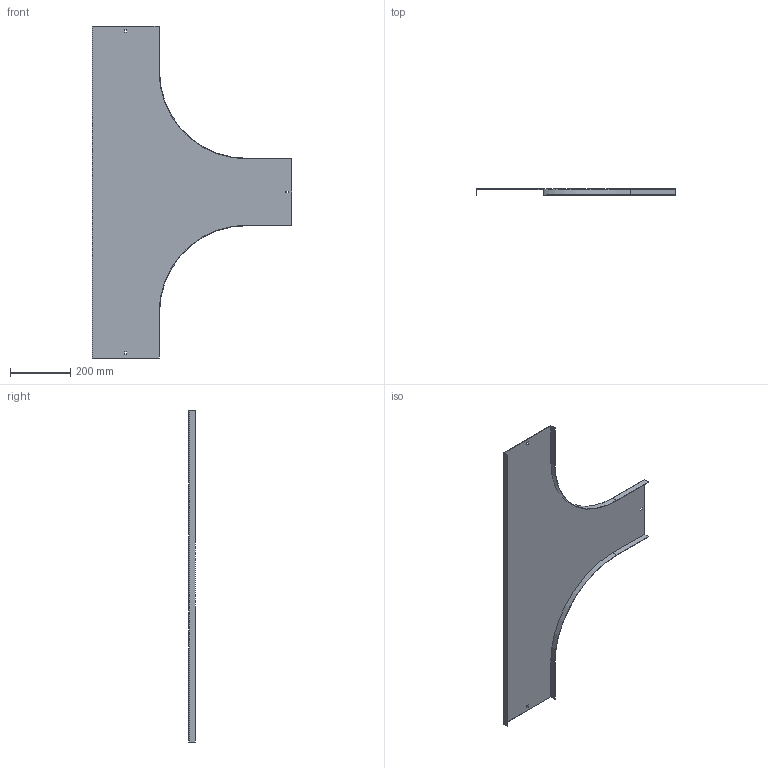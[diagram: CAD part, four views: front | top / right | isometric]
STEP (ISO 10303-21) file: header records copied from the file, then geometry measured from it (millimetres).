
FILE_DESCRIPTION (( 'STEP AP214' ), '1' );
FILE_NAME ('15N3P200.step', '2025-02-21T13:55:37', ( '' ), ( '' ), 'SwSTEP 2.0', 'SolidWorks 2023', '' );
FILE_SCHEMA (( 'AUTOMOTIVE_DESIGN' ));
Length unit declared in the file: millimetre
Products named in the file (1): 15N3P200
Bounding box: 661.5 x 20 x 1100 mm (x, y, z)
Volume: 640342 mm3; surface area: 859008.3 mm2
Topology: 1 solids, 1 shells, 34 faces, 96 edges, 64 vertices
Faces by surface type: plane 30, cylinder 4
Entity records: 1123 total; most frequent: CARTESIAN_POINT 195, ORIENTED_EDGE 192, DIRECTION 174, EDGE_CURVE 96, LINE 88, VECTOR 88, VERTEX_POINT 64, AXIS2_PLACEMENT_3D 43
